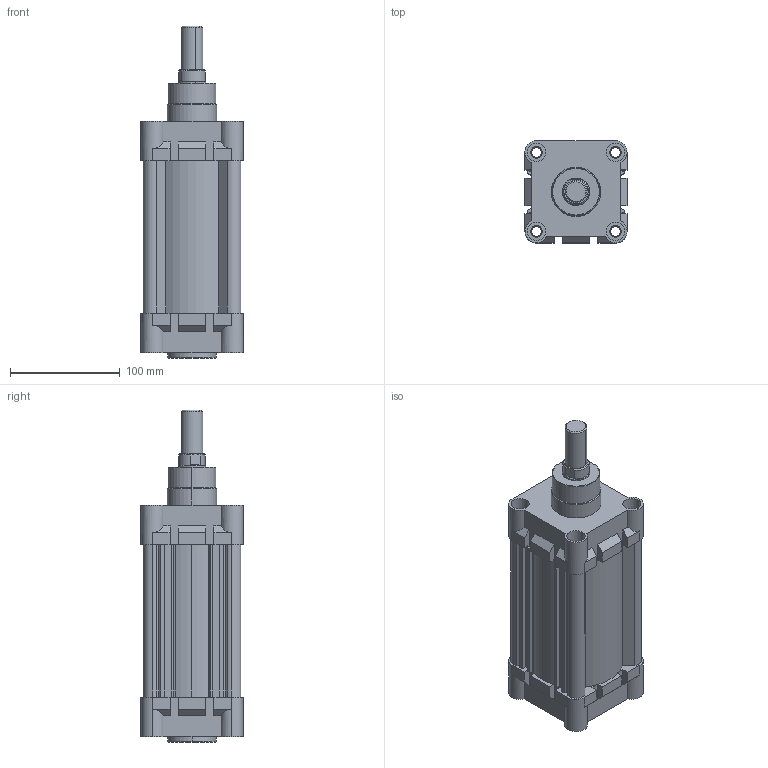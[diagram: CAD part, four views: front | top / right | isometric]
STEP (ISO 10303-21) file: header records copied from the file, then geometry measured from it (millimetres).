
FILE_DESCRIPTION (( 'STEP AP214' ), '1' );
FILE_NAME ('RIC_80_100_WEB.STEP', '2020-09-23T07:58:26', ( '' ), ( '' ), 'SwSTEP 2.0', 'SolidWorks 2018', '' );
FILE_SCHEMA (( 'AUTOMOTIVE_DESIGN' ));
Length unit declared in the file: millimetre
Products named in the file (5): RIC_80_ARKA_KAPAK_WEB; RIC_80_100_WEB; RIC_80_ONKAPAK_WEB; RIC_80_MIL_WEB; RIC_80_BORU_WEB
Assembly tree (4 placements, depth 2):
  RIC_80_100_WEB
    RIC_80_ARKA_KAPAK_WEB
    RIC_80_BORU_WEB
    RIC_80_ONKAPAK_WEB
    RIC_80_MIL_WEB
Bounding box: 93 x 93 x 302.6 mm (x, y, z)
Volume: 839115.8 mm3; surface area: 221499.7 mm2
Topology: 4 solids, 4 shells, 468 faces, 1241 edges, 819 vertices
Faces by surface type: plane 246, cylinder 161, bspline 44, cone 11, torus 6
Entity records: 19109 total; most frequent: CARTESIAN_POINT 5717, ORIENTED_EDGE 2482, DIRECTION 2302, EDGE_CURVE 1241, VERTEX_POINT 819, LINE 790, VECTOR 790, AXIS2_PLACEMENT_3D 756
